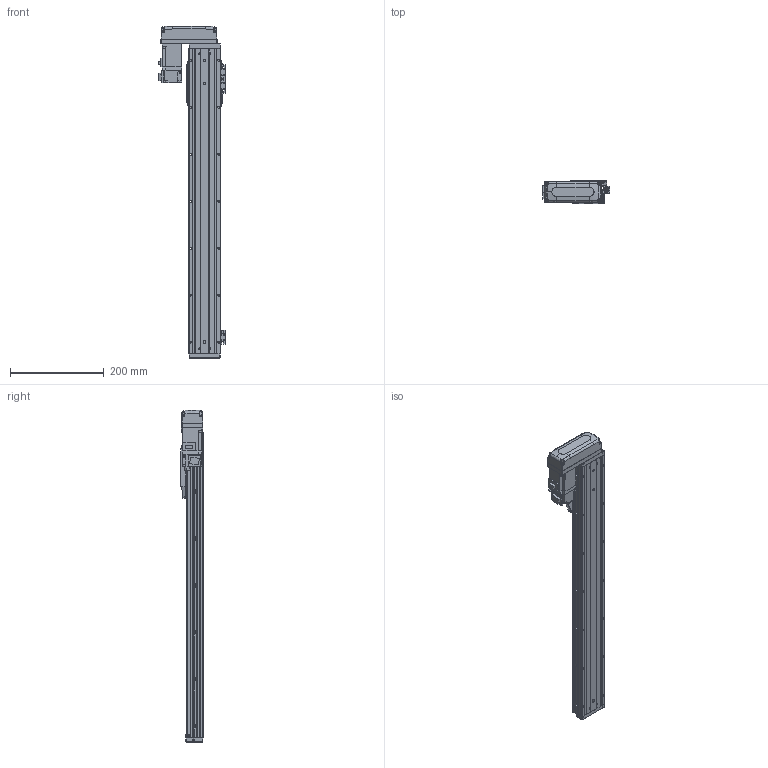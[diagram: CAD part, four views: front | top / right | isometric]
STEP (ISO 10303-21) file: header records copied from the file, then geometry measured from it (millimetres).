
FILE_DESCRIPTION (( 'STEP AP203' ), '1' );
FILE_NAME ('CTHA60-500-BR-M10-C4L.step', '2022-03-19T06:22:31', ( '微软用户' ), ( '微软中国' ), 'SwSTEP 2.0', 'SolidWorks 2020', '' );
FILE_SCHEMA (( 'CONFIG_CONTROL_DESIGN' ));
Length unit declared in the file: millimetre
Products named in the file (18): CTHA60-004; GBT77-2000 M3×3; CTHA60-006-1; CTHA60-005; GBT 70.1-M3℅6; CTHA60-033; GB¨uT 70.2-M3¡Á6_M3¡Á6; GBT 70.3-M3℅6; CTHA60-500-BR-M10-C4L; EE_SX911P_R; CTHA60-016; CTHA60-017; HG-KR13（三菱）; CTHA60-021; CTHA60-002; CTHA60-001_650; GBT 70.1-M4×16; CTHA60-031
Assembly tree (54 placements, depth 2):
  CTHA60-500-BR-M10-C4L
    CTHA60-001_650
    CTHA60-004
    CTHA60-005
    GB¨uT 70.2-M3¡Á6_M3¡Á6  x10
    EE_SX911P_R  x3
    CTHA60-017  x3
    CTHA60-021  x2
    GBT 70.1-M4×16  x10
    GBT77-2000 M3×3  x6
    GBT 70.1-M3℅6  x6
    GBT 70.3-M3℅6  x4
    CTHA60-016  x2
    HG-KR13（三菱）
    CTHA60-002
    CTHA60-031
    CTHA60-006-1
    CTHA60-033
Bounding box: 143.62 x 48 x 707 mm (x, y, z)
Volume: 1259625.5 mm3; surface area: 382484 mm2
Topology: 56 solids, 56 shells, 2514 faces, 6037 edges, 3721 vertices
Faces by surface type: plane 1449, cylinder 577, cone 340, torus 92, bspline 32, sphere 24
Entity records: 45011 total; most frequent: CARTESIAN_POINT 8698, DIRECTION 6946, ORIENTED_EDGE 6882, EDGE_CURVE 3441, VECTOR 2442, LINE 2442, AXIS2_PLACEMENT_3D 2252, VERTEX_POINT 2180
